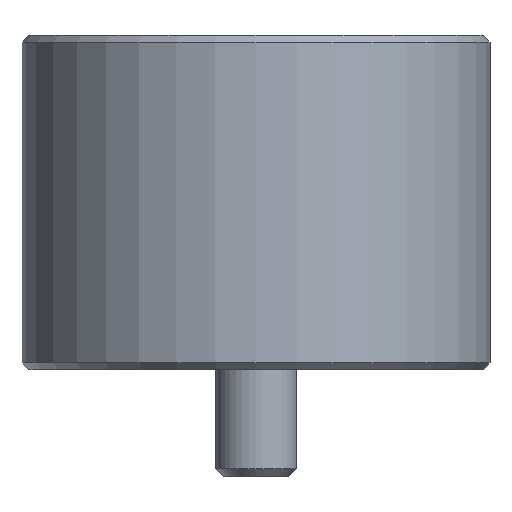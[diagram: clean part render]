
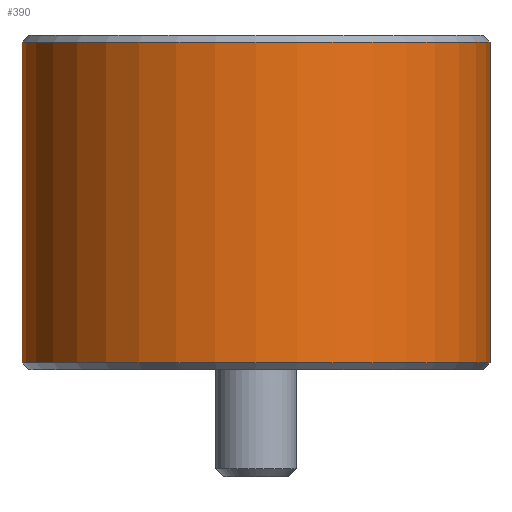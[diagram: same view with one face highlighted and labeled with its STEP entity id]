
A CAD part, front view. The second image highlights one B-rep face of the part: STEP entity #390.
In plain terms, the highlighted cylindrical face has radius 35 mm (diameter 70 mm), a partial arc.
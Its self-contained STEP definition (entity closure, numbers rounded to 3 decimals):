
#109=VERTEX_POINT(' ',#110);
#110=CARTESIAN_POINT('',(-35.,0.,49.));
#111=VERTEX_POINT(' ',#112);
#112=CARTESIAN_POINT('',(35.,0.,49.));
#113=VERTEX_POINT(' ',#114);
#114=CARTESIAN_POINT('',(35.,0.,1.));
#115=VERTEX_POINT(' ',#116);
#116=CARTESIAN_POINT('',(-35.,0.,1.));
#217=CIRCLE('',#218,35.);
#218=AXIS2_PLACEMENT_3D('',#219,#220,#221);
#219=CARTESIAN_POINT('',(0.,0.,49.));
#220=DIRECTION('',(0.,0.,-1.));
#221=DIRECTION('',(0.,1.,0.));
#222=EDGE_CURVE(' ',#109,#111,#217,.F.);
#229=LINE('',#230,#231);
#230=CARTESIAN_POINT('',(-35.,0.,0.));
#231=VECTOR('',#232,1.);
#232=DIRECTION('',(0.,0.,-1.));
#233=EDGE_CURVE(' ',#109,#115,#229,.T.);
#234=LINE('',#235,#236);
#235=CARTESIAN_POINT('',(35.,0.,0.));
#236=VECTOR('',#237,1.);
#237=DIRECTION('',(0.,0.,-1.));
#238=EDGE_CURVE(' ',#111,#113,#234,.T.);
#239=CIRCLE('',#240,35.);
#240=AXIS2_PLACEMENT_3D('',#241,#242,#243);
#241=CARTESIAN_POINT('',(0.,0.,1.));
#242=DIRECTION('',(0.,0.,-1.));
#243=DIRECTION('',(0.,1.,0.));
#244=EDGE_CURVE(' ',#113,#115,#239,.T.);
#379=ORIENTED_EDGE('',*,*,#244,.F.);
#380=ORIENTED_EDGE('',*,*,#238,.F.);
#381=ORIENTED_EDGE('',*,*,#222,.F.);
#382=ORIENTED_EDGE('',*,*,#233,.T.);
#383=EDGE_LOOP('',(#379,#380,#381,#382));
#384=FACE_OUTER_BOUND('',#383,.T.);
#385=CYLINDRICAL_SURFACE('',#386,35.);
#386=AXIS2_PLACEMENT_3D('',#387,#388,#389);
#387=CARTESIAN_POINT('',(0.,0.,50.));
#388=DIRECTION('',(0.,0.,-1.));
#389=DIRECTION('',(0.,1.,0.));
#390=ADVANCED_FACE('',(#384),#385,.T.);
